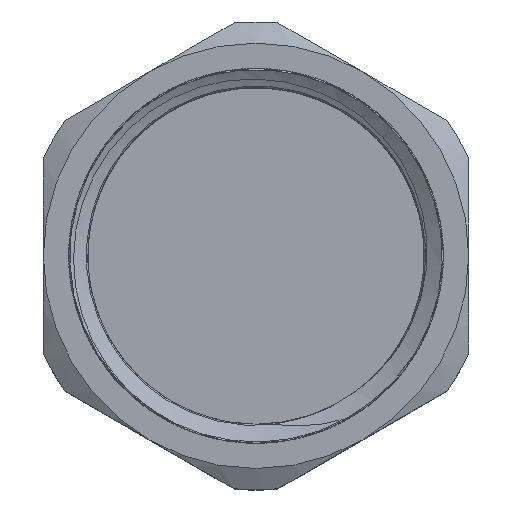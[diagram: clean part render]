
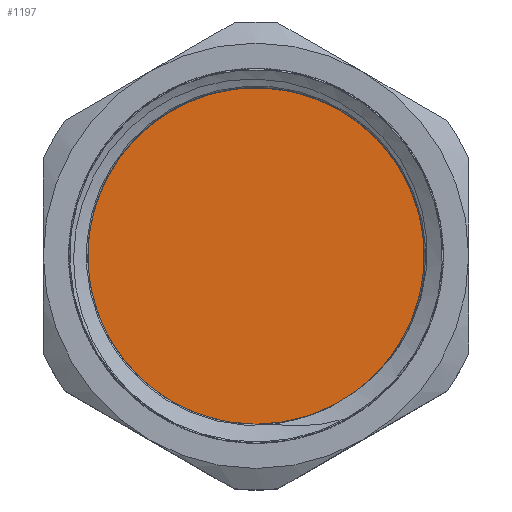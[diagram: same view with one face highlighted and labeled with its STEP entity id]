
A CAD part, top view. The second image highlights one B-rep face of the part: STEP entity #1197.
In plain terms, the highlighted planar face has unit normal (0, 0, 1).
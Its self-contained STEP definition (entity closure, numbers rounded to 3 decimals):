
#103=PLANE('',#1312);
#329=FACE_OUTER_BOUND('',#403,.T.);
#403=EDGE_LOOP('',(#1036,#1037));
#447=CIRCLE('',#1306,13.22);
#450=CIRCLE('',#1309,13.22);
#562=VERTEX_POINT('',#1958);
#563=VERTEX_POINT('',#1959);
#724=EDGE_CURVE('',#562,#563,#447,.T.);
#728=EDGE_CURVE('',#563,#562,#450,.T.);
#1036=ORIENTED_EDGE('',*,*,#724,.F.);
#1037=ORIENTED_EDGE('',*,*,#728,.F.);
#1197=ADVANCED_FACE('',(#329),#103,.T.);
#1306=AXIS2_PLACEMENT_3D('',#1960,#1543,#1544);
#1309=AXIS2_PLACEMENT_3D('',#1966,#1550,#1551);
#1312=AXIS2_PLACEMENT_3D('',#1969,#1556,#1557);
#1543=DIRECTION('center_axis',(0.,0.,-1.));
#1544=DIRECTION('ref_axis',(1.,0.,0.));
#1550=DIRECTION('center_axis',(0.,0.,-1.));
#1551=DIRECTION('ref_axis',(1.,0.,0.));
#1556=DIRECTION('center_axis',(0.,0.,1.));
#1557=DIRECTION('ref_axis',(1.,0.,0.));
#1958=CARTESIAN_POINT('',(0.,13.22,-11.));
#1959=CARTESIAN_POINT('',(0.,-13.22,-11.));
#1960=CARTESIAN_POINT('Origin',(0.,0.,-11.));
#1966=CARTESIAN_POINT('Origin',(0.,0.,-11.));
#1969=CARTESIAN_POINT('Origin',(0.,13.22,-11.));
